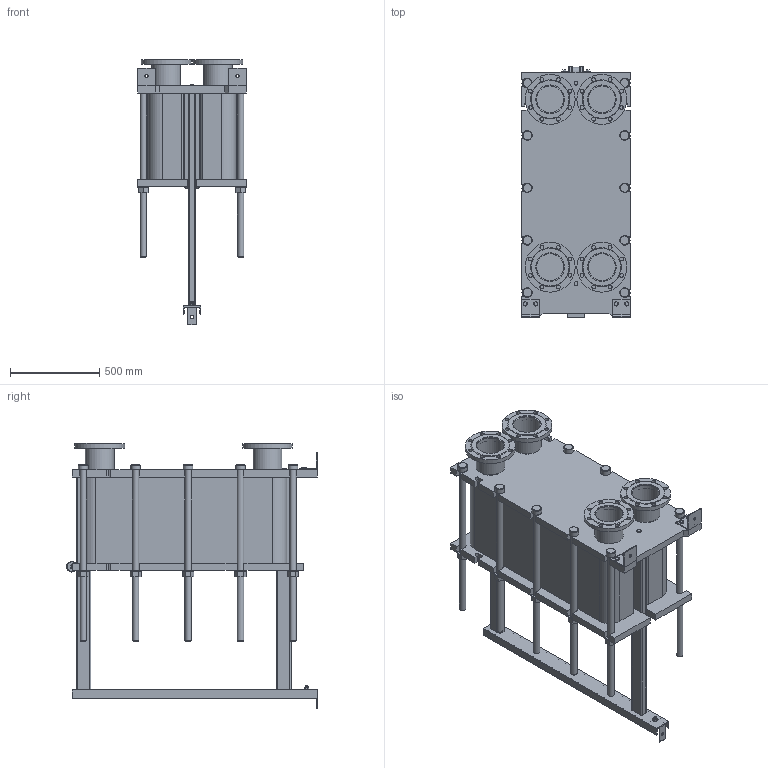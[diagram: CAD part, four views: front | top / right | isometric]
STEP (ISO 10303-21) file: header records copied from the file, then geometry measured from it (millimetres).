
FILE_DESCRIPTION(/* description */ (''),/* implementation_level */ '2;1');
FILE_NAME(/* name */ 'C:\Users\zhuro\Desktop\ENCO\TO\ЭН-041\ЭН-0,5-041-140-1.stp',/* time_stamp */ '2022-06-06T11:00:50+03:00',/* author */ ('zhuro'),/* organization */ (''),/* preprocessor_version */ 'ST-DEVELOPER v18.1',/* originating_system */ 'Autodesk Inventor 2022',/* authorisation */ '');
FILE_SCHEMA (('AUTOMOTIVE_DESIGN { 1 0 10303 214 3 1 1 }'));
Length unit declared in the file: millimetre
Products named in the file (1): ЭН-0,5-041-140-1
Bounding box: 610 x 1406.5 x 1490 mm (x, y, z)
Volume: 354941259.9 mm3; surface area: 9906478.3 mm2
Topology: 52 solids, 52 shells, 711 faces, 1696 edges, 1094 vertices
Faces by surface type: plane 487, cylinder 177, cone 41, torus 6
Full cylindrical faces by diameter (mm): 8 x4, 10 x2, 16 x8, 18 x3, 22 x32, 36 x24, 50 x1, 54 x10, 60 x12, 151 x4, 161 x8, 280 x4
Entity records: 22667 total; most frequent: CARTESIAN_POINT 5230, DIRECTION 3644, ORIENTED_EDGE 3392, EDGE_CURVE 1696, AXIS2_PLACEMENT_3D 1272, LINE 1100, VECTOR 1100, VERTEX_POINT 1094
